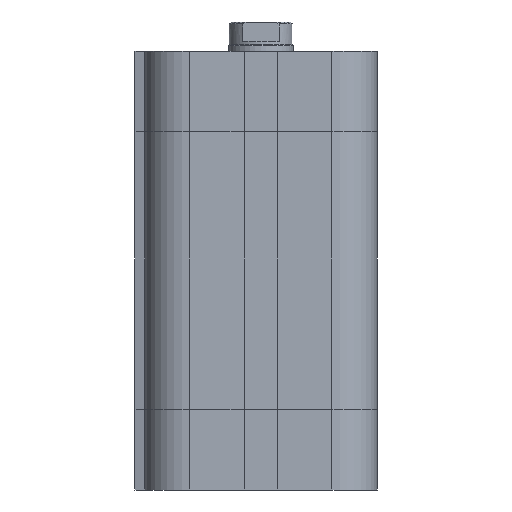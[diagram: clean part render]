
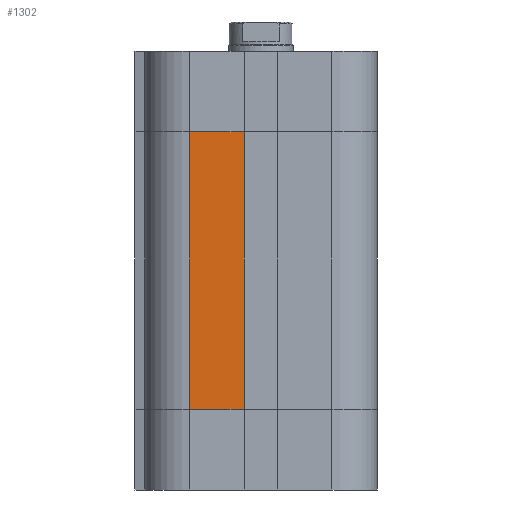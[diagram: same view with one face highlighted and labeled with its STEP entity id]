
A CAD part, left-side view. The second image highlights one B-rep face of the part: STEP entity #1302.
In plain terms, the highlighted planar face has unit normal (-1, 0, 0).
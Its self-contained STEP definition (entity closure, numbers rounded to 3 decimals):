
#1213=CARTESIAN_POINT('',(-18.,11.0,12.5));
#1214=VERTEX_POINT('',#1213);
#1222=CARTESIAN_POINT('',(-18.,11.0,55.5));
#1223=VERTEX_POINT('',#1222);
#1224=CARTESIAN_POINT('',(-18.,11.0,12.5));
#1225=DIRECTION('',(0.0,0.0,1.0));
#1226=VECTOR('',#1225,43.);
#1227=LINE('',#1224,#1226);
#1228=EDGE_CURVE('',#1214,#1223,#1227,.T.);
#1272=CARTESIAN_POINT('',(-18.0,2.6,0.0));
#1273=DIRECTION('',(-1.0,0.0,0.0));
#1274=DIRECTION('',(0.0,0.0,1.0));
#1275=AXIS2_PLACEMENT_3D('',#1272,#1273,#1274);
#1276=PLANE('',#1275);
#1277=CARTESIAN_POINT('',(-18.0,2.6,12.5));
#1278=VERTEX_POINT('',#1277);
#1279=CARTESIAN_POINT('',(-18.,11.0,12.5));
#1280=DIRECTION('',(0.0,-1.0,0.0));
#1281=VECTOR('',#1280,8.4);
#1282=LINE('',#1279,#1281);
#1283=EDGE_CURVE('',#1214,#1278,#1282,.T.);
#1284=ORIENTED_EDGE('',*,*,#1283,.T.);
#1285=CARTESIAN_POINT('',(-18.0,2.6,55.5));
#1286=VERTEX_POINT('',#1285);
#1287=CARTESIAN_POINT('',(-18.0,2.6,12.5));
#1288=DIRECTION('',(0.0,0.0,1.0));
#1289=VECTOR('',#1288,43.);
#1290=LINE('',#1287,#1289);
#1291=EDGE_CURVE('',#1278,#1286,#1290,.T.);
#1292=ORIENTED_EDGE('',*,*,#1291,.T.);
#1293=CARTESIAN_POINT('',(-18.,11.0,55.5));
#1294=DIRECTION('',(0.0,-1.0,0.0));
#1295=VECTOR('',#1294,8.4);
#1296=LINE('',#1293,#1295);
#1297=EDGE_CURVE('',#1223,#1286,#1296,.T.);
#1298=ORIENTED_EDGE('',*,*,#1297,.F.);
#1299=ORIENTED_EDGE('',*,*,#1228,.F.);
#1300=EDGE_LOOP('',(#1284,#1292,#1298,#1299));
#1301=FACE_OUTER_BOUND('',#1300,.T.);
#1302=ADVANCED_FACE('',(#1301),#1276,.T.);
